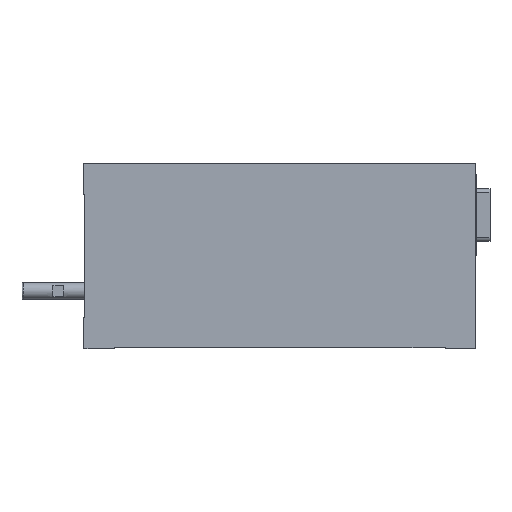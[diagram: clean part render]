
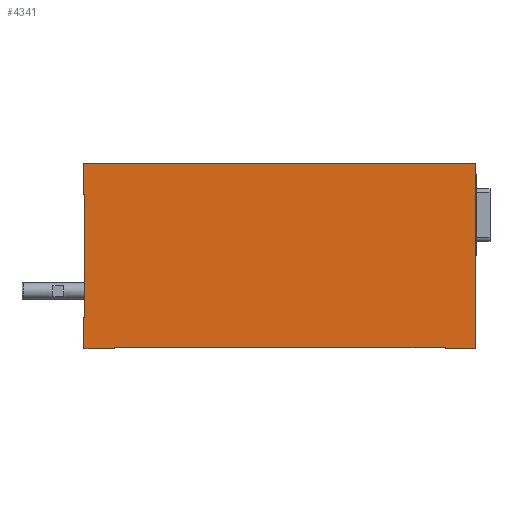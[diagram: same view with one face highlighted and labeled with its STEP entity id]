
A CAD part, top view. The second image highlights one B-rep face of the part: STEP entity #4341.
In plain terms, the highlighted planar face has unit normal (0, 0, 1).
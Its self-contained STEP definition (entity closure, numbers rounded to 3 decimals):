
#950=CARTESIAN_POINT('',(95.115,44.937,0.0));
#951=VERTEX_POINT('',#950);
#960=CARTESIAN_POINT('',(95.115,-45.063,0.0));
#961=VERTEX_POINT('',#960);
#962=CARTESIAN_POINT('',(95.115,44.937,0.0));
#963=DIRECTION('',(0.0,-1.0,0.0));
#964=VECTOR('',#963,90.0);
#965=LINE('',#962,#964);
#966=EDGE_CURVE('',#951,#961,#965,.T.);
#2672=CARTESIAN_POINT('',(-94.385,-30.063,0.0));
#2673=VERTEX_POINT('',#2672);
#2682=CARTESIAN_POINT('',(-94.385,29.937,0.0));
#2683=VERTEX_POINT('',#2682);
#2684=CARTESIAN_POINT('',(-94.385,-30.063,0.0));
#2685=DIRECTION('',(0.0,1.0,0.0));
#2686=VECTOR('',#2685,60.0);
#2687=LINE('',#2684,#2686);
#2688=EDGE_CURVE('',#2673,#2683,#2687,.T.);
#4052=CARTESIAN_POINT('',(80.115,-44.563,0.0));
#4053=VERTEX_POINT('',#4052);
#4060=CARTESIAN_POINT('',(-79.885,-44.563,0.0));
#4061=VERTEX_POINT('',#4060);
#4062=CARTESIAN_POINT('',(80.115,-44.563,0.0));
#4063=DIRECTION('',(-1.0,0.0,0.0));
#4064=VECTOR('',#4063,160.);
#4065=LINE('',#4062,#4064);
#4066=EDGE_CURVE('',#4053,#4061,#4065,.T.);
#4082=CARTESIAN_POINT('',(80.115,-45.063,0.0));
#4083=VERTEX_POINT('',#4082);
#4090=CARTESIAN_POINT('',(80.115,-45.063,0.0));
#4091=DIRECTION('',(0.0,1.0,0.0));
#4092=VECTOR('',#4091,0.5);
#4093=LINE('',#4090,#4092);
#4094=EDGE_CURVE('',#4083,#4053,#4093,.T.);
#4114=CARTESIAN_POINT('',(95.115,-45.063,0.0));
#4115=DIRECTION('',(-1.0,0.0,0.0));
#4116=VECTOR('',#4115,15.);
#4117=LINE('',#4114,#4116);
#4118=EDGE_CURVE('',#961,#4083,#4117,.T.);
#4137=CARTESIAN_POINT('',(-94.885,44.937,0.0));
#4138=VERTEX_POINT('',#4137);
#4145=CARTESIAN_POINT('',(-94.885,44.937,0.0));
#4146=DIRECTION('',(1.0,0.0,0.0));
#4147=VECTOR('',#4146,190.0);
#4148=LINE('',#4145,#4147);
#4149=EDGE_CURVE('',#4138,#951,#4148,.T.);
#4162=CARTESIAN_POINT('',(-94.885,29.937,0.0));
#4163=VERTEX_POINT('',#4162);
#4170=CARTESIAN_POINT('',(-94.885,29.937,0.0));
#4171=DIRECTION('',(0.0,1.0,0.0));
#4172=VECTOR('',#4171,15.0);
#4173=LINE('',#4170,#4172);
#4174=EDGE_CURVE('',#4163,#4138,#4173,.T.);
#4199=CARTESIAN_POINT('',(-94.385,29.937,0.0));
#4200=DIRECTION('',(-1.0,0.0,0.0));
#4201=VECTOR('',#4200,0.5);
#4202=LINE('',#4199,#4201);
#4203=EDGE_CURVE('',#2683,#4163,#4202,.T.);
#4227=CARTESIAN_POINT('',(-94.885,-30.063,0.0));
#4228=VERTEX_POINT('',#4227);
#4235=CARTESIAN_POINT('',(-94.885,-30.063,0.0));
#4236=DIRECTION('',(1.0,0.0,0.0));
#4237=VECTOR('',#4236,0.5);
#4238=LINE('',#4235,#4237);
#4239=EDGE_CURVE('',#4228,#2673,#4238,.T.);
#4251=CARTESIAN_POINT('',(-94.885,-45.063,0.0));
#4252=VERTEX_POINT('',#4251);
#4259=CARTESIAN_POINT('',(-94.885,-45.063,0.0));
#4260=DIRECTION('',(0.0,1.0,0.0));
#4261=VECTOR('',#4260,15.0);
#4262=LINE('',#4259,#4261);
#4263=EDGE_CURVE('',#4252,#4228,#4262,.T.);
#4284=CARTESIAN_POINT('',(-79.885,-45.063,0.0));
#4285=VERTEX_POINT('',#4284);
#4292=CARTESIAN_POINT('',(-79.885,-45.063,0.0));
#4293=DIRECTION('',(-1.0,0.0,0.0));
#4294=VECTOR('',#4293,15.);
#4295=LINE('',#4292,#4294);
#4296=EDGE_CURVE('',#4285,#4252,#4295,.T.);
#4309=CARTESIAN_POINT('',(-79.885,-44.563,0.0));
#4310=DIRECTION('',(0.0,-1.0,0.0));
#4311=VECTOR('',#4310,0.5);
#4312=LINE('',#4309,#4311);
#4313=EDGE_CURVE('',#4061,#4285,#4312,.T.);
#4322=CARTESIAN_POINT('',(0.,0.,0.0));
#4323=DIRECTION('',(0.0,0.0,1.0));
#4324=DIRECTION('',(1.0,0.0,0.0));
#4325=AXIS2_PLACEMENT_3D('',#4322,#4323,#4324);
#4326=PLANE('',#4325);
#4327=ORIENTED_EDGE('',*,*,#4174,.F.);
#4328=ORIENTED_EDGE('',*,*,#4203,.F.);
#4329=ORIENTED_EDGE('',*,*,#2688,.F.);
#4330=ORIENTED_EDGE('',*,*,#4239,.F.);
#4331=ORIENTED_EDGE('',*,*,#4263,.F.);
#4332=ORIENTED_EDGE('',*,*,#4296,.F.);
#4333=ORIENTED_EDGE('',*,*,#4313,.F.);
#4334=ORIENTED_EDGE('',*,*,#4066,.F.);
#4335=ORIENTED_EDGE('',*,*,#4094,.F.);
#4336=ORIENTED_EDGE('',*,*,#4118,.F.);
#4337=ORIENTED_EDGE('',*,*,#966,.F.);
#4338=ORIENTED_EDGE('',*,*,#4149,.F.);
#4339=EDGE_LOOP('',(#4327,#4328,#4329,#4330,#4331,#4332,#4333,#4334,#4335,#4336,#4337,#4338));
#4340=FACE_OUTER_BOUND('',#4339,.T.);
#4341=ADVANCED_FACE('',(#4340),#4326,.T.);
